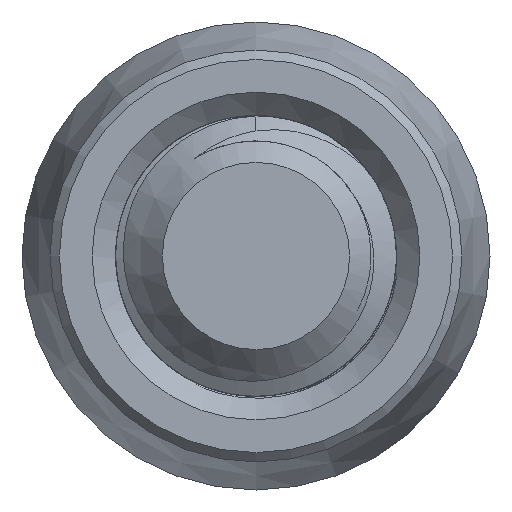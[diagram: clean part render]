
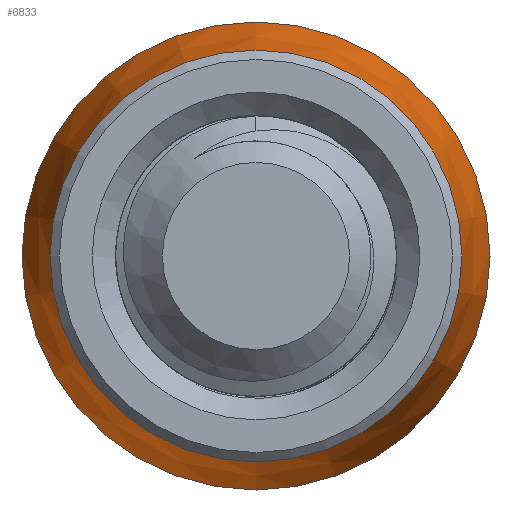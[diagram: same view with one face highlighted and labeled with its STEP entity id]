
A CAD part, front view. The second image highlights one B-rep face of the part: STEP entity #6833.
In plain terms, the highlighted conical face has half-angle 14.036 degrees and reference radius 2.5 mm.
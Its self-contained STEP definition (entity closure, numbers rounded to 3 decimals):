
#1080 = CONICAL_SURFACE ( 'NONE', #1471, 2.5, 0.245 ) ;
#1281 = DIRECTION ( 'NONE',  ( 0., -1., 0. ) ) ;
#1309 = CIRCLE ( 'NONE', #3100, 2.2 ) ;
#1348 = AXIS2_PLACEMENT_3D ( 'NONE', #6003, #1281, #6029 ) ;
#1359 = DIRECTION ( 'NONE',  ( 0., 1., 0. ) ) ;
#1471 = AXIS2_PLACEMENT_3D ( 'NONE', #4783, #1359, #4839 ) ;
#1757 = EDGE_LOOP ( 'NONE', ( #6376 ) ) ;
#2012 = DIRECTION ( 'NONE',  ( 0., 0., -1. ) ) ;
#3100 = AXIS2_PLACEMENT_3D ( 'NONE', #3379, #4134, #2012 ) ;
#3277 = VERTEX_POINT ( 'NONE', #8010 ) ;
#3379 = CARTESIAN_POINT ( 'NONE',  ( 0., 1.3, 0. ) ) ;
#3445 = EDGE_LOOP ( 'NONE', ( #5832 ) ) ;
#4134 = DIRECTION ( 'NONE',  ( 0., -1., 0. ) ) ;
#4712 = EDGE_CURVE ( 'NONE', #3277, #3277, #6934, .T. ) ;
#4783 = CARTESIAN_POINT ( 'NONE',  ( 0., 2.5, 0. ) ) ;
#4839 = DIRECTION ( 'NONE',  ( 0., 0., 1. ) ) ;
#5620 = FACE_OUTER_BOUND ( 'NONE', #1757, .T. ) ;
#5832 = ORIENTED_EDGE ( 'NONE', *, *, #6794, .F. ) ;
#6003 = CARTESIAN_POINT ( 'NONE',  ( 0., 2.5, 0. ) ) ;
#6029 = DIRECTION ( 'NONE',  ( 0., 0., -1. ) ) ;
#6376 = ORIENTED_EDGE ( 'NONE', *, *, #4712, .T. ) ;
#6465 = FACE_BOUND ( 'NONE', #3445, .T. ) ;
#6794 = EDGE_CURVE ( 'NONE', #7382, #7382, #1309, .T. ) ;
#6833 = ADVANCED_FACE ( 'NONE', ( #6465, #5620 ), #1080, .T. ) ;
#6934 = CIRCLE ( 'NONE', #1348, 2.5 ) ;
#7382 = VERTEX_POINT ( 'NONE', #8127 ) ;
#8010 = CARTESIAN_POINT ( 'NONE',  ( 0., 2.5, -2.5 ) ) ;
#8127 = CARTESIAN_POINT ( 'NONE',  ( 0., 1.3, -2.2 ) ) ;
